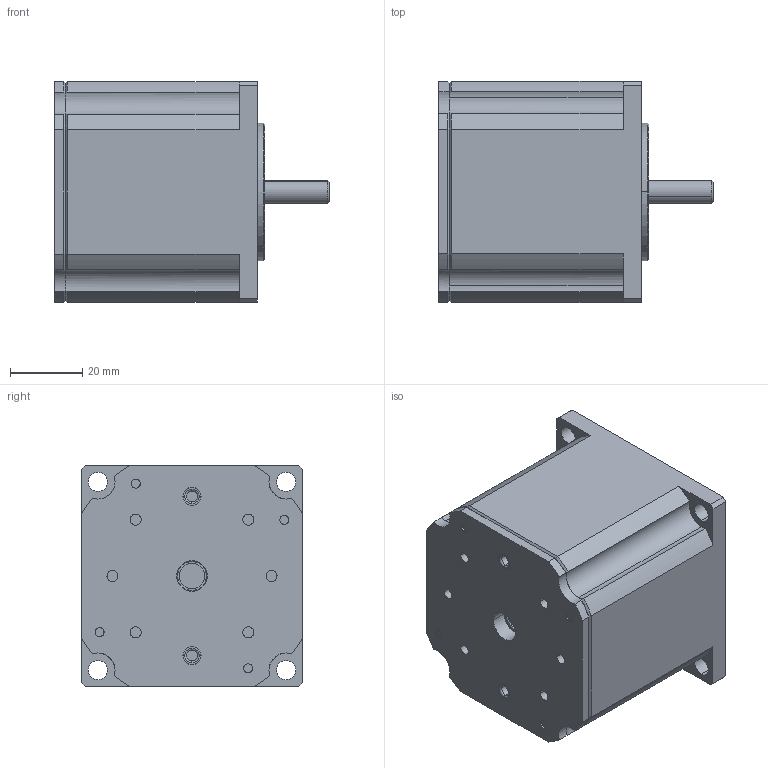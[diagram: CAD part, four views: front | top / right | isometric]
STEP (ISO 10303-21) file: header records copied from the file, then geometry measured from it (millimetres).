
FILE_DESCRIPTION (( 'STEP AP214' ), '1' );
FILE_NAME ('HV57-1.STEP', '2026-08-20T09:18:00', ( '' ), ( '' ), 'SwSTEP 2.0', 'SolidWorks 2026', '' );
FILE_SCHEMA (( 'AUTOMOTIVE_DESIGN' ));
Length unit declared in the file: millimetre
Products named in the file (1): HV57-1
Bounding box: 75.9 x 61 x 61 mm (x, y, z)
Surface area: 22667.3 mm2 (no closed solid volume)
Topology: 0 solids, 15 shells, 231 faces, 676 edges, 467 vertices
Faces by surface type: cylinder 150, plane 46, cone 29, torus 6
Entity records: 8515 total; most frequent: CARTESIAN_POINT 2080, DIRECTION 1494, ORIENTED_EDGE 1228, EDGE_CURVE 676, AXIS2_PLACEMENT_3D 625, VERTEX_POINT 467, CIRCLE 393, EDGE_LOOP 267
